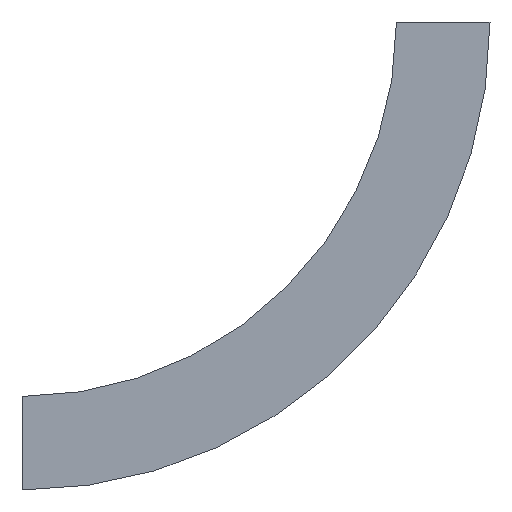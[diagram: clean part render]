
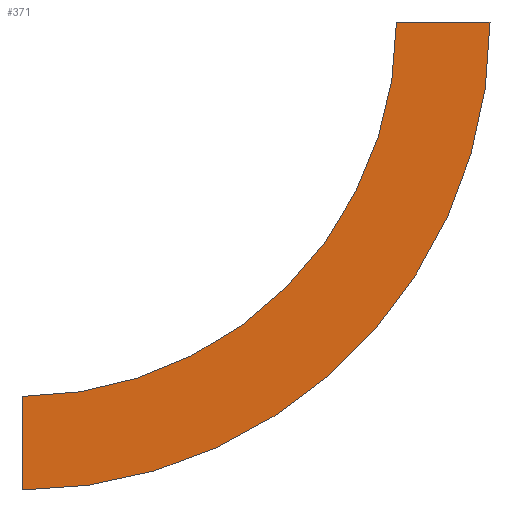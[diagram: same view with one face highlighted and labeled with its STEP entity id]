
A CAD part, left-side view. The second image highlights one B-rep face of the part: STEP entity #371.
In plain terms, the highlighted planar face has unit normal (-1, 0, 0) as drawn and (1, 0, 0) by its records, which use the part's own axes.
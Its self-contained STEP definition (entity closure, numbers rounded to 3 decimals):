
#1 = CARTESIAN_POINT ( 'NONE',  ( 0., -75., 0. ) ) ;
#4 = CARTESIAN_POINT ( 'NONE',  ( 0., 300., -300. ) ) ;
#27 = CARTESIAN_POINT ( 'NONE',  ( 0., 300., 0. ) ) ;
#38 = ORIENTED_EDGE ( 'NONE', *, *, #39, .F. ) ;
#39 = EDGE_CURVE ( 'NONE', #223, #147, #242, .T. ) ;
#58 = PLANE ( 'NONE',  #331 ) ;
#87 = ORIENTED_EDGE ( 'NONE', *, *, #247, .T. ) ;
#104 = FACE_OUTER_BOUND ( 'NONE', #278, .T. ) ;
#114 = EDGE_CURVE ( 'NONE', #389, #223, #568, .T. ) ;
#115 = CARTESIAN_POINT ( 'NONE',  ( 0., 300., 0. ) ) ;
#147 = VERTEX_POINT ( 'NONE', #4 ) ;
#182 = DIRECTION ( 'NONE',  ( -1., 0., 0. ) ) ;
#189 = DIRECTION ( 'NONE',  ( 0., 0., 1. ) ) ;
#190 = AXIS2_PLACEMENT_3D ( 'NONE', #27, #252, #561 ) ;
#219 = CARTESIAN_POINT ( 'NONE',  ( 0., 0., 0. ) ) ;
#223 = VERTEX_POINT ( 'NONE', #219 ) ;
#240 = DIRECTION ( 'NONE',  ( 0., -1., 0. ) ) ;
#242 = CIRCLE ( 'NONE', #574, 300. ) ;
#247 = EDGE_CURVE ( 'NONE', #493, #147, #401, .T. ) ;
#252 = DIRECTION ( 'NONE',  ( 1., 0., 0. ) ) ;
#270 = CARTESIAN_POINT ( 'NONE',  ( 0., -75., 0. ) ) ;
#278 = EDGE_LOOP ( 'NONE', ( #38, #327, #484, #87 ) ) ;
#327 = ORIENTED_EDGE ( 'NONE', *, *, #114, .F. ) ;
#331 = AXIS2_PLACEMENT_3D ( 'NONE', #270, #182, #189 ) ;
#371 = ADVANCED_FACE ( 'NONE', ( #104 ), #58, .F. ) ;
#389 = VERTEX_POINT ( 'NONE', #1 ) ;
#400 = CARTESIAN_POINT ( 'NONE',  ( 0., -75., 0. ) ) ;
#401 = LINE ( 'NONE', #533, #529 ) ;
#403 = DIRECTION ( 'NONE',  ( 0., 1., 0. ) ) ;
#410 = VECTOR ( 'NONE', #403, 1000. ) ;
#434 = CIRCLE ( 'NONE', #190, 375. ) ;
#480 = EDGE_CURVE ( 'NONE', #389, #493, #434, .T. ) ;
#484 = ORIENTED_EDGE ( 'NONE', *, *, #480, .T. ) ;
#493 = VERTEX_POINT ( 'NONE', #517 ) ;
#495 = DIRECTION ( 'NONE',  ( 0., 0., 1. ) ) ;
#517 = CARTESIAN_POINT ( 'NONE',  ( 0., 300., -375. ) ) ;
#524 = DIRECTION ( 'NONE',  ( 1., 0., 0. ) ) ;
#529 = VECTOR ( 'NONE', #495, 1000. ) ;
#533 = CARTESIAN_POINT ( 'NONE',  ( 0., 300., -375. ) ) ;
#561 = DIRECTION ( 'NONE',  ( 0., -1., 0. ) ) ;
#568 = LINE ( 'NONE', #400, #410 ) ;
#574 = AXIS2_PLACEMENT_3D ( 'NONE', #115, #524, #240 ) ;
